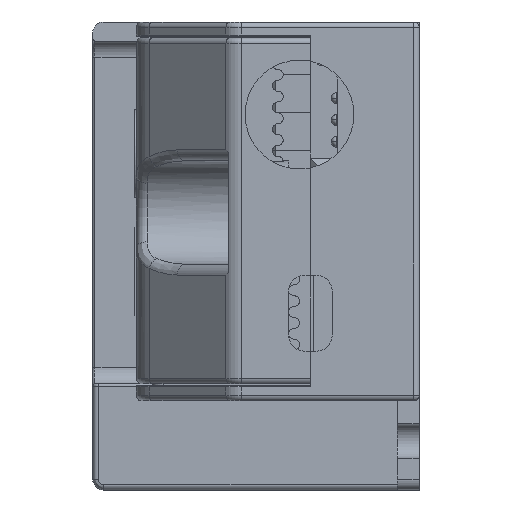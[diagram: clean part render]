
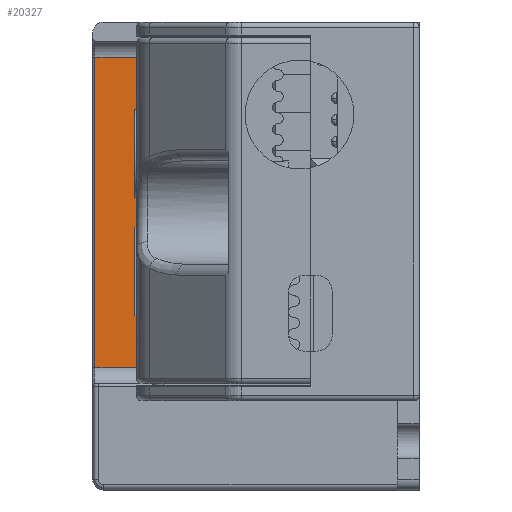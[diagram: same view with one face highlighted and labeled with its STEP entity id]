
A CAD part, left-side view. The second image highlights one B-rep face of the part: STEP entity #20327.
In plain terms, the highlighted planar face has unit normal (-1, 0, 0).
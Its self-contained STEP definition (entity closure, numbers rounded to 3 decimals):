
#423 = CYLINDRICAL_SURFACE('',#424,1.5);
#424 = AXIS2_PLACEMENT_3D('',#425,#426,#427);
#425 = CARTESIAN_POINT('',(-35.5,69.108,18.25));
#426 = DIRECTION('',(0.,-1.,0.));
#427 = DIRECTION('',(1.,0.,0.));
#9180 = PLANE('',#9181);
#9181 = AXIS2_PLACEMENT_3D('',#9182,#9183,#9184);
#9182 = CARTESIAN_POINT('',(0.,24.5,0.));
#9183 = DIRECTION('',(0.,1.,0.));
#9184 = DIRECTION('',(1.,0.,0.));
#9902 = VERTEX_POINT('',#9903);
#9903 = CARTESIAN_POINT('',(-34.,24.5,-10.25));
#9918 = CYLINDRICAL_SURFACE('',#9919,1.5);
#9919 = AXIS2_PLACEMENT_3D('',#9920,#9921,#9922);
#9920 = CARTESIAN_POINT('',(-35.5,-39.108,-10.25));
#9921 = DIRECTION('',(0.,1.,0.));
#9922 = DIRECTION('',(1.,0.,0.));
#9930 = EDGE_CURVE('',#9902,#9931,#9933,.T.);
#9931 = VERTEX_POINT('',#9932);
#9932 = CARTESIAN_POINT('',(-34.,24.5,18.25));
#9933 = SURFACE_CURVE('',#9934,(#9938,#9945),.PCURVE_S1.);
#9934 = LINE('',#9935,#9936);
#9935 = CARTESIAN_POINT('',(-34.,24.5,-10.25));
#9936 = VECTOR('',#9937,1.);
#9937 = DIRECTION('',(0.,0.,1.));
#9938 = PCURVE('',#9180,#9939);
#9939 = DEFINITIONAL_REPRESENTATION('',(#9940),#9944);
#9940 = LINE('',#9941,#9942);
#9941 = CARTESIAN_POINT('',(-34.,10.25));
#9942 = VECTOR('',#9943,1.);
#9943 = DIRECTION('',(0.,-1.));
#9944 = ( GEOMETRIC_REPRESENTATION_CONTEXT(2) 
PARAMETRIC_REPRESENTATION_CONTEXT() REPRESENTATION_CONTEXT('2D SPACE',''
  ) );
#9945 = PCURVE('',#9946,#9951);
#9946 = PLANE('',#9947);
#9947 = AXIS2_PLACEMENT_3D('',#9948,#9949,#9950);
#9948 = CARTESIAN_POINT('',(-34.,10.,18.));
#9949 = DIRECTION('',(1.,0.,0.));
#9950 = DIRECTION('',(0.,0.,1.));
#9951 = DEFINITIONAL_REPRESENTATION('',(#9952),#9956);
#9952 = LINE('',#9953,#9954);
#9953 = CARTESIAN_POINT('',(-28.25,-14.5));
#9954 = VECTOR('',#9955,1.);
#9955 = DIRECTION('',(1.,0.));
#9956 = ( GEOMETRIC_REPRESENTATION_CONTEXT(2) 
PARAMETRIC_REPRESENTATION_CONTEXT() REPRESENTATION_CONTEXT('2D SPACE',''
  ) );
#11046 = CYLINDRICAL_SURFACE('',#11047,0.2);
#11047 = AXIS2_PLACEMENT_3D('',#11048,#11049,#11050);
#11048 = CARTESIAN_POINT('',(-33.8,29.8,18.423));
#11049 = DIRECTION('',(0.,0.,-1.));
#11050 = DIRECTION('',(-1.,0.,0.));
#20202 = VERTEX_POINT('',#20203);
#20203 = CARTESIAN_POINT('',(-34.,29.8,18.25));
#20229 = EDGE_CURVE('',#20202,#9931,#20230,.T.);
#20230 = SURFACE_CURVE('',#20231,(#20235,#20242),.PCURVE_S1.);
#20231 = LINE('',#20232,#20233);
#20232 = CARTESIAN_POINT('',(-34.,29.8,18.25));
#20233 = VECTOR('',#20234,1.);
#20234 = DIRECTION('',(0.,-1.,0.));
#20235 = PCURVE('',#423,#20236);
#20236 = DEFINITIONAL_REPRESENTATION('',(#20237),#20241);
#20237 = LINE('',#20238,#20239);
#20238 = CARTESIAN_POINT('',(0.,39.308));
#20239 = VECTOR('',#20240,1.);
#20240 = DIRECTION('',(0.,1.));
#20241 = ( GEOMETRIC_REPRESENTATION_CONTEXT(2) 
PARAMETRIC_REPRESENTATION_CONTEXT() REPRESENTATION_CONTEXT('2D SPACE',''
  ) );
#20242 = PCURVE('',#9946,#20243);
#20243 = DEFINITIONAL_REPRESENTATION('',(#20244),#20248);
#20244 = LINE('',#20245,#20246);
#20245 = CARTESIAN_POINT('',(0.25,-19.8));
#20246 = VECTOR('',#20247,1.);
#20247 = DIRECTION('',(0.,1.));
#20248 = ( GEOMETRIC_REPRESENTATION_CONTEXT(2) 
PARAMETRIC_REPRESENTATION_CONTEXT() REPRESENTATION_CONTEXT('2D SPACE',''
  ) );
#20284 = VERTEX_POINT('',#20285);
#20285 = CARTESIAN_POINT('',(-34.,29.8,-10.25));
#20307 = EDGE_CURVE('',#20202,#20284,#20308,.T.);
#20308 = SURFACE_CURVE('',#20309,(#20313,#20320),.PCURVE_S1.);
#20309 = LINE('',#20310,#20311);
#20310 = CARTESIAN_POINT('',(-34.,29.8,18.25));
#20311 = VECTOR('',#20312,1.);
#20312 = DIRECTION('',(0.,0.,-1.));
#20313 = PCURVE('',#11046,#20314);
#20314 = DEFINITIONAL_REPRESENTATION('',(#20315),#20319);
#20315 = LINE('',#20316,#20317);
#20316 = CARTESIAN_POINT('',(0.,0.173));
#20317 = VECTOR('',#20318,1.);
#20318 = DIRECTION('',(0.,1.));
#20319 = ( GEOMETRIC_REPRESENTATION_CONTEXT(2) 
PARAMETRIC_REPRESENTATION_CONTEXT() REPRESENTATION_CONTEXT('2D SPACE',''
  ) );
#20320 = PCURVE('',#9946,#20321);
#20321 = DEFINITIONAL_REPRESENTATION('',(#20322),#20326);
#20322 = LINE('',#20323,#20324);
#20323 = CARTESIAN_POINT('',(0.25,-19.8));
#20324 = VECTOR('',#20325,1.);
#20325 = DIRECTION('',(-1.,0.));
#20326 = ( GEOMETRIC_REPRESENTATION_CONTEXT(2) 
PARAMETRIC_REPRESENTATION_CONTEXT() REPRESENTATION_CONTEXT('2D SPACE',''
  ) );
#20327 = ADVANCED_FACE('',(#20328),#9946,.F.);
#20328 = FACE_BOUND('',#20329,.F.);
#20329 = EDGE_LOOP('',(#20330,#20331,#20332,#20333));
#20330 = ORIENTED_EDGE('',*,*,#20307,.F.);
#20331 = ORIENTED_EDGE('',*,*,#20229,.T.);
#20332 = ORIENTED_EDGE('',*,*,#9930,.F.);
#20333 = ORIENTED_EDGE('',*,*,#20334,.T.);
#20334 = EDGE_CURVE('',#9902,#20284,#20335,.T.);
#20335 = SURFACE_CURVE('',#20336,(#20340,#20347),.PCURVE_S1.);
#20336 = LINE('',#20337,#20338);
#20337 = CARTESIAN_POINT('',(-34.,24.5,-10.25));
#20338 = VECTOR('',#20339,1.);
#20339 = DIRECTION('',(0.,1.,0.));
#20340 = PCURVE('',#9946,#20341);
#20341 = DEFINITIONAL_REPRESENTATION('',(#20342),#20346);
#20342 = LINE('',#20343,#20344);
#20343 = CARTESIAN_POINT('',(-28.25,-14.5));
#20344 = VECTOR('',#20345,1.);
#20345 = DIRECTION('',(0.,-1.));
#20346 = ( GEOMETRIC_REPRESENTATION_CONTEXT(2) 
PARAMETRIC_REPRESENTATION_CONTEXT() REPRESENTATION_CONTEXT('2D SPACE',''
  ) );
#20347 = PCURVE('',#9918,#20348);
#20348 = DEFINITIONAL_REPRESENTATION('',(#20349),#20353);
#20349 = LINE('',#20350,#20351);
#20350 = CARTESIAN_POINT('',(0.,63.608));
#20351 = VECTOR('',#20352,1.);
#20352 = DIRECTION('',(0.,1.));
#20353 = ( GEOMETRIC_REPRESENTATION_CONTEXT(2) 
PARAMETRIC_REPRESENTATION_CONTEXT() REPRESENTATION_CONTEXT('2D SPACE',''
  ) );
